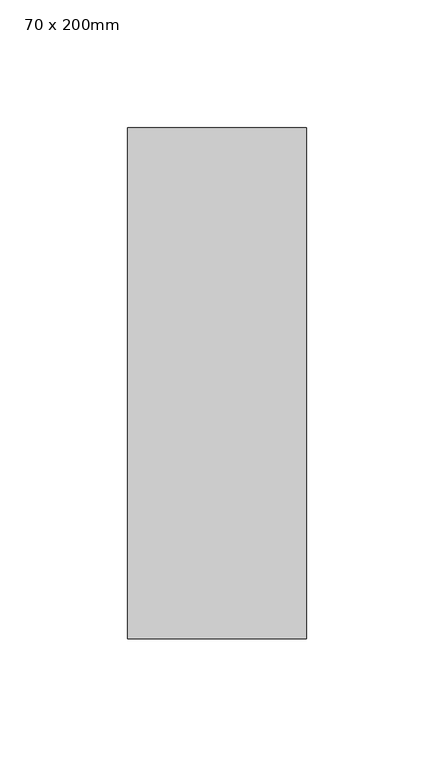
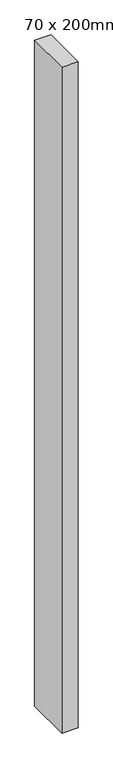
"""IFC4 building model written with IfcOpenShell, lengths in millimetres: member geometry, 矩形竖梃 : 70 x 200mm."""

import ifcopenshell
import ifcopenshell.guid

model = None  # the IFC model being written
_history = None  # IfcOwnerHistory: only IFC2X3 demands one
_inside = {}  # id of a spatial element -> (the spatial element, [elements in it])
_under = {}  # id of a project, library or spatial element -> (it, [spatial elements below it])
_declared = {}  # id of a project -> (the project, [libraries it declares])
_typed = {}  # id of a type object -> (the type object, [elements of that type])
_made_of = {}  # id of a material, layer set ... -> (it, [elements and type objects made of it])


def new_model(schema):
    """Start an empty IFC model of exactly this schema.

    Asked for "IFC4X3", IfcOpenShell would pick the latest addendum, in which some entities
    have other attributes; the version numbers below select the first issue.
    IFC2X3 requires an IfcOwnerHistory on every rooted entity: one is made here for all.
    """
    global model, _history
    if schema == "IFC4X3":
        model = ifcopenshell.file(schema_version=(4, 3, 0, 0))
    else:
        model = ifcopenshell.file(schema=schema)
    _inside.clear()
    _under.clear()
    _declared.clear()
    _typed.clear()
    _made_of.clear()
    _history = None
    if model.schema == "IFC2X3":
        org = make("IfcOrganization", Name="unknown")
        user = make(
            "IfcPersonAndOrganization",
            ThePerson=make("IfcPerson", FamilyName="unknown"),
            TheOrganization=org,
        )
        app = make(
            "IfcApplication",
            ApplicationDeveloper=org,
            Version="unknown",
            ApplicationFullName="unknown",
            ApplicationIdentifier="unknown",
        )
        _history = make(
            "IfcOwnerHistory",
            OwningUser=user,
            OwningApplication=app,
            ChangeAction="ADDED",
            CreationDate=0,
        )
    return model


def make(cls, **values):
    """One entity of the class cls with the attributes given. An attribute that is None is left unset."""
    return model.create_entity(
        cls, **{name: value for name, value in values.items() if value is not None}
    )


def rooted(cls, **values):
    """An entity with a GlobalId (a new one), such as an element, a storey or a relation."""
    return make(cls, GlobalId=ifcopenshell.guid.new(), OwnerHistory=_history, **values)


def si_unit(unit_type, name, prefix=None):
    """IfcSIUnit, for example si_unit("LENGTHUNIT", "METRE", prefix="MILLI")."""
    return make("IfcSIUnit", UnitType=unit_type, Prefix=prefix, Name=name)


def assignment(units):
    """IfcUnitAssignment: the units of a project."""
    return None if units is None else make("IfcUnitAssignment", Units=units)


def point(xyz):
    """IfcCartesianPoint."""
    return None if xyz is None else make("IfcCartesianPoint", Coordinates=xyz)


def direction(xyz):
    """IfcDirection."""
    return None if xyz is None else make("IfcDirection", DirectionRatios=xyz)


def frame(location, z_axis=None, x_axis=None):
    """IfcAxis2Placement3D, a coordinate frame: its origin and axes. An axis left out is left unset."""
    return make(
        "IfcAxis2Placement3D",
        Location=point(location),
        Axis=direction(z_axis),
        RefDirection=direction(x_axis),
    )


def origin():
    """The frame at (0, 0, 0) with its axes left unset."""
    return frame((0.0, 0.0, 0.0))


def place(relative_to, where):
    """IfcLocalPlacement: puts the frame where relative to a parent placement (None: the world)."""
    return make(
        "IfcLocalPlacement", PlacementRelTo=relative_to, RelativePlacement=where
    )


def context(
    kind, dimensions, precision=None, world=None, true_north=None, identifier=None
):
    """IfcGeometricRepresentationContext, for example the 3D "Model" context."""
    return make(
        "IfcGeometricRepresentationContext",
        ContextIdentifier=identifier,
        ContextType=kind,
        CoordinateSpaceDimension=dimensions,
        Precision=precision,
        WorldCoordinateSystem=world,
        TrueNorth=true_north,
    )


def project(units=None, contexts=None):
    """IfcProject with its units and contexts."""
    return rooted(
        "IfcProject",
        Name="project",
        RepresentationContexts=contexts,
        UnitsInContext=assignment(units),
    )


def spatial(cls, under=None, at=None, **own):
    """A site, building, storey or space (cls), placed at a placement, below another one or the project."""
    s = rooted(cls, ObjectPlacement=at, **own)
    if under is not None:
        _under.setdefault(under.id(), (under, []))[1].append(s)
    return s


def polyline(points):
    """IfcPolyline through the points."""
    return make("IfcPolyline", Points=[point(p) for p in points])


def outline(outer, holes=None, kind="AREA"):
    """IfcArbitraryClosedProfileDef: a profile drawn as a closed curve; with holes, ...WithVoids."""
    if holes is None:
        return make("IfcArbitraryClosedProfileDef", ProfileType=kind, OuterCurve=outer)
    return make(
        "IfcArbitraryProfileDefWithVoids",
        ProfileType=kind,
        OuterCurve=outer,
        InnerCurves=holes,
    )


def extrude(swept, where, along, depth):
    """IfcExtrudedAreaSolid: the profile swept, set in the frame where, extruded along a direction by depth."""
    return make(
        "IfcExtrudedAreaSolid",
        SweptArea=swept,
        Position=where,
        ExtrudedDirection=direction(along),
        Depth=depth,
    )


def shape(context_of_items, identifier, shape_type, items):
    """IfcShapeRepresentation: the items that make up one representation, for example the "Body"."""
    return make(
        "IfcShapeRepresentation",
        ContextOfItems=context_of_items,
        RepresentationIdentifier=identifier,
        RepresentationType=shape_type,
        Items=items,
    )


def source(mapping_origin, context_of_items, identifier, shape_type, items):
    """IfcRepresentationMap: a shape defined once, which mapped items show again and again."""
    return make(
        "IfcRepresentationMap",
        MappingOrigin=mapping_origin,
        MappedRepresentation=shape(context_of_items, identifier, shape_type, items),
    )


def transform(
    local_origin,
    x_axis=None,
    y_axis=None,
    z_axis=None,
    scale=None,
    scale2=None,
    scale3=None,
    uniform=True,
):
    """IfcCartesianTransformationOperator3D, or its non-uniform kind. x_axis, y_axis, z_axis: its Axis1, 2, 3."""
    if uniform:
        return make(
            "IfcCartesianTransformationOperator3D",
            Axis1=direction(x_axis),
            Axis2=direction(y_axis),
            LocalOrigin=point(local_origin),
            Scale=scale,
            Axis3=direction(z_axis),
        )
    return make(
        "IfcCartesianTransformationOperator3DnonUniform",
        Axis1=direction(x_axis),
        Axis2=direction(y_axis),
        LocalOrigin=point(local_origin),
        Scale=scale,
        Axis3=direction(z_axis),
        Scale2=scale2,
        Scale3=scale3,
    )


def mapped(mapping_source, mapping_target):
    """IfcMappedItem: shows the shape of a source again, moved by a transform."""
    return make(
        "IfcMappedItem", MappingSource=mapping_source, MappingTarget=mapping_target
    )


def made_of(thing, what):
    """Note that an element or type object is made of a material, layer set ...; save() writes the relation."""
    if what is not None:
        _made_of.setdefault(what.id(), (what, []))[1].append(thing)
    return thing


def element(
    cls,
    number,
    at=None,
    inside=None,
    cuts=None,
    type_object=None,
    material=None,
    context=None,
    identifier="Body",
    shape_type=None,
    held_by="IfcProductDefinitionShape",
    body=None,
    shapes=None,
    **own,
):
    """One element of the class cls, such as IfcWall. Its Tag is "e" and its number.

    at: its placement. inside: the storey or other place that contains it. cuts: it is an
    opening in that element (IfcRelVoidsElement). A single representation is given by context,
    identifier, shape_type and body (its items); several are given by shapes. held_by: the class
    of the entity that holds the representations. save() writes the other relations.
    """
    e = rooted(cls, Tag="e%d" % number, ObjectPlacement=at, **own)
    if body is not None:
        shapes = [shape(context, identifier, shape_type, body)]
    if shapes is not None:
        e.Representation = make(held_by, Representations=shapes)
    if inside is not None:
        _inside.setdefault(inside.id(), (inside, []))[1].append(e)
    if cuts is not None:
        rooted(
            "IfcRelVoidsElement", RelatingBuildingElement=cuts, RelatedOpeningElement=e
        )
    if type_object is not None:
        _typed.setdefault(type_object.id(), (type_object, []))[1].append(e)
    return made_of(e, material)


def aggregate(whole, parts):
    """IfcRelAggregates: a whole, such as a stair, and the parts it consists of."""
    return rooted("IfcRelAggregates", RelatingObject=whole, RelatedObjects=parts)


def save(model, path):
    """Write the relations noted so far, then the file.

    IfcRelAggregates (storeys below a building ...), IfcRelContainedInSpatialStructure (elements
    in a storey), IfcRelDefinesByType, IfcRelAssociatesMaterial and IfcRelDeclares: one each for
    every whole, place, type object, material and project.
    """
    for whole, parts in _under.values():
        aggregate(whole, parts)
    for where, things in _inside.values():
        rooted(
            "IfcRelContainedInSpatialStructure",
            RelatedElements=things,
            RelatingStructure=where,
        )
    for kind, things in _typed.values():
        rooted("IfcRelDefinesByType", RelatedObjects=things, RelatingType=kind)
    for what, things in _made_of.values():
        rooted("IfcRelAssociatesMaterial", RelatedObjects=things, RelatingMaterial=what)
    for by, libraries in _declared.values():
        rooted("IfcRelDeclares", RelatingContext=by, RelatedDefinitions=libraries)
    model.write(path)


def member_70_x_200mm_ab4e7ed3(model_context):
    return source(origin(), model_context, "Body", "SweptSolid", [
        extrude(outline(polyline([(35.0, 100.0), (35.0, -100.0), (-35.0, -100.0), (-35.0, 100.0), (35.0, 100.0)])), frame((0.0, 0.0, -3000.0), z_axis=(0.0, 0.0, 1.0), x_axis=(1.0, 0.0, 0.0)), (0.0, 0.0, 1.0), 3000.0),
    ])


if __name__ == "__main__":
    model = new_model("IFC4")
    model_context = context("Model", 3, world=origin())
    ifc_project = project(units=[si_unit("LENGTHUNIT", "METRE", prefix="MILLI")], contexts=[model_context])
    site = spatial("IfcSite", under=ifc_project)
    building = spatial("IfcBuilding", under=site)
    placement = place(None, origin())
    member_70_x_200mm_shape = member_70_x_200mm_ab4e7ed3(model_context)
    element("IfcMember", 1, ObjectType="矩形竖梃 : 70 x 200mm", at=placement, inside=building, context=model_context, shape_type="MappedRepresentation", body=[
        mapped(member_70_x_200mm_shape, transform((0.0, 0.0, 0.0), x_axis=(1.0, 0.0, 0.0), y_axis=(0.0, 1.0, 0.0), z_axis=(0.0, 0.0, 1.0))),
    ])
    save(model, "model.ifc")
